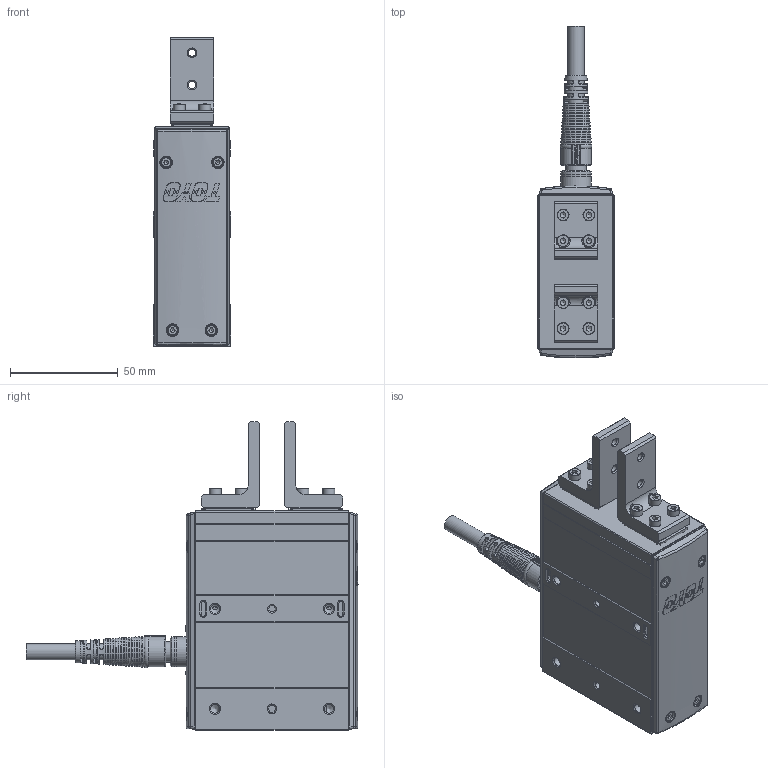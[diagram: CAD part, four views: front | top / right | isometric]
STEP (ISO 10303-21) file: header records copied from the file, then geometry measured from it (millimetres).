
FILE_DESCRIPTION(/* description */ ('STEP AP214'),/* implementation_level */ '2;1');
FILE_NAME(/* name */ 'D:\2025.02.25 帶電匯整給泊舟\CHZ2-N14-180.stp',/* time_stamp */ '2025-02-26T10:48:47+08:00',/* author */ ('T10033'),/* organization */ (''),/* preprocessor_version */ 'ST-DEVELOPER v18.1',/* originating_system */ 'Autodesk Inventor 2020',/* authorisation */ '');
FILE_SCHEMA (('CONFIG_CONTROL_DESIGN'));
Products named in the file (8): CHZ2-S14; 慶陞金屬頭; M12-14PIN 線端180度接頭-05中繼線; 62TW34T6SE34_Shrinkwrap_1; 6T3Y7E45_Shrinkwrap_1; 43Y345YED45R; 12021-000016; socket head cap screw_iso_ISO 4762 M3 x 12 - 12C
Assembly tree (12 placements, depth 3):
  CHZ2-S14
    慶陞金屬頭
    M12-14PIN 線端180度接頭-05中繼線
    62TW34T6SE34_Shrinkwrap_1
    6T3Y7E45_Shrinkwrap_1  x2
    43Y345YED45R  x2
      12021-000016
      socket head cap screw_iso_ISO 4762 M3 x 12 - 12C
Bounding box: 36 x 154.4 x 143.5 mm (x, y, z)
Volume: 308492.3 mm3; surface area: 70202 mm2
Topology: 50 solids, 50 shells, 2772 faces, 7462 edges, 4902 vertices
Faces by surface type: plane 1593, cylinder 501, cone 406, bspline 166, torus 86, sphere 20
Full cylindrical faces by diameter (mm): 0.6 x14, 0.65 x14, 0.8 x2, 1 x18, 2 x2, 2.05 x16, 2.5 x20, 2.7 x8, 3 x17, 3.2 x8, 3.3 x4, 4.2 x12, 4.5 x8, 4.7 x4, 5.5 x10, 6.8 x2, 7.5 x1, 8 x1, 8.9 x1, 9.5 x2, 9.6 x1, 10.5 x2, 11 x1, 11.2 x5, 12 x1, 13 x1, 13.8 x1, 14 x2
Entity records: 102821 total; most frequent: CARTESIAN_POINT 37549, DIRECTION 13367, ORIENTED_EDGE 13126, EDGE_CURVE 6563, AXIS2_PLACEMENT_3D 4985, VERTEX_POINT 4339, LINE 3397, VECTOR 3397
